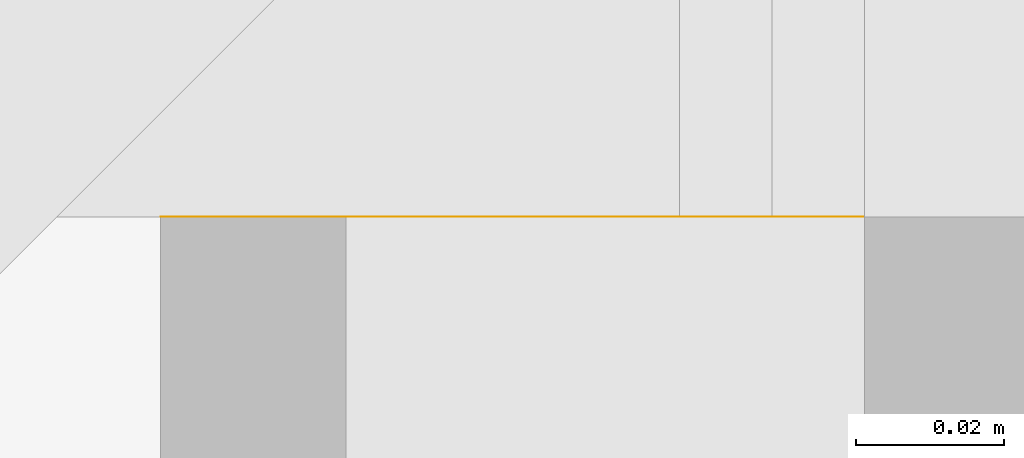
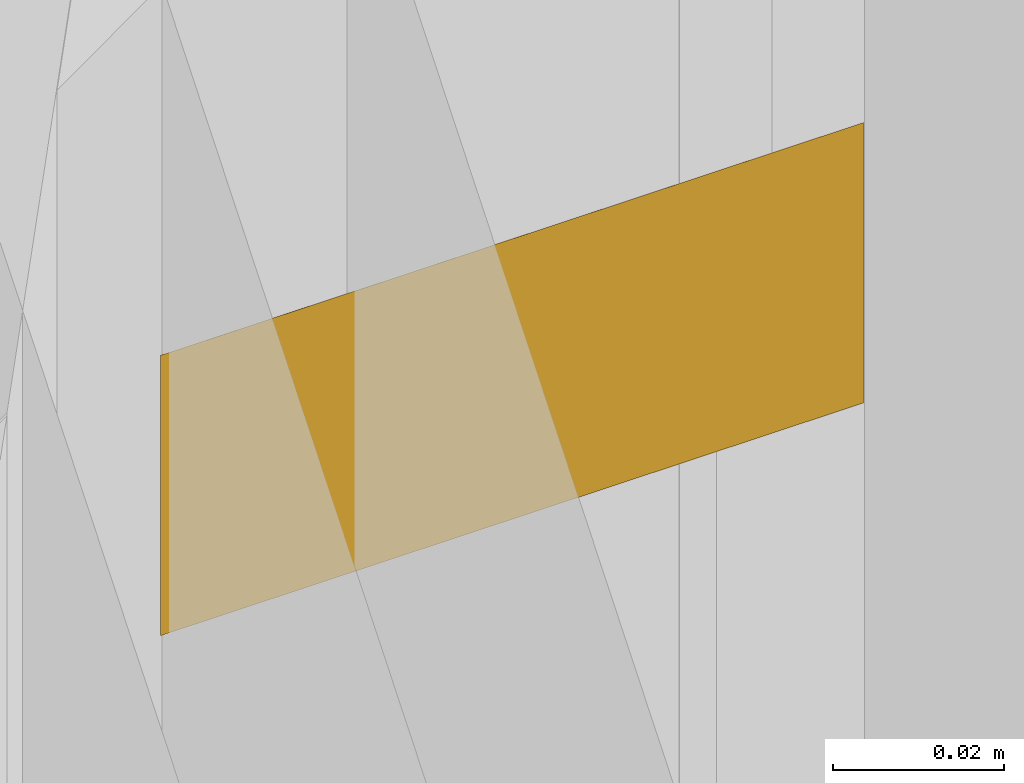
# One storey, part 91 of 109: 1 covering.
"""IFC2X3 building model written with IfcOpenShell, lengths in millimetres."""

from ifc_helpers import new_model, entity, si_unit, converted_unit, derived_unit, money_unit, direction, frame, origin_with_axes, place, context, subcontext, project, spatial, faceted_brep, material, type_object, element, save


model = new_model("IFC2X3")

# Units and contexts
model_context = context("Model", 3, precision=0.01, world=origin_with_axes(), true_north=direction((0.0, 1.0)))
body_context = subcontext(model_context, "Body", "Model", "MODEL_VIEW")
ifc_project = project(units=[si_unit("LENGTHUNIT", "METRE", prefix="MILLI"), si_unit("AREAUNIT", "SQUARE_METRE"), si_unit("VOLUMEUNIT", "CUBIC_METRE"), converted_unit("PLANEANGLEUNIT", "DEGREE", entity("IfcPlaneAngleMeasure", 0.0174532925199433), si_unit("PLANEANGLEUNIT", "RADIAN"), dimensions=[0, 0, 0, 0, 0, 0, 0]), money_unit("EUR"), converted_unit("TIMEUNIT", "Year", entity("IfcTimeMeasure", 31557600.0), si_unit("TIMEUNIT", "SECOND"), dimensions=[0, 0, 1, 0, 0, 0, 0]), si_unit("MASSUNIT", "GRAM", prefix="KILO"), si_unit("THERMODYNAMICTEMPERATUREUNIT", "DEGREE_CELSIUS"), si_unit("LUMINOUSINTENSITYUNIT", "LUMEN"), si_unit("ENERGYUNIT", "JOULE", prefix="MEGA"), derived_unit("THERMALCONDUCTANCEUNIT", [(si_unit("POWERUNIT", "WATT"), 1), (si_unit("LENGTHUNIT", "METRE"), -1), (si_unit("THERMODYNAMICTEMPERATUREUNIT", "KELVIN"), -1)]), derived_unit("SPECIFICHEATCAPACITYUNIT", [(si_unit("ENERGYUNIT", "JOULE"), 1), (si_unit("MASSUNIT", "GRAM", prefix="KILO"), -1), (si_unit("THERMODYNAMICTEMPERATUREUNIT", "KELVIN"), -1)]), derived_unit("MASSDENSITYUNIT", [(si_unit("MASSUNIT", "GRAM", prefix="KILO"), 1), (si_unit("VOLUMEUNIT", "CUBIC_METRE"), -1)])], contexts=[model_context])

# Site, building, storey
site_placement = place(None, origin_with_axes())
site = spatial("IfcSite", under=ifc_project, at=site_placement, Name="<site naam>", CompositionType="ELEMENT")
building_placement = place(site_placement, origin_with_axes())
building = spatial("IfcBuilding", under=site, at=building_placement, Name="<Naam gebouw>", CompositionType="ELEMENT")
storey_placement = place(building_placement, origin_with_axes())
storey = spatial("IfcBuildingStorey", under=building, at=storey_placement, Name="00 Begane grond", CompositionType="ELEMENT", Elevation=0.0)

# Covering
ifc_material = material(Name="systeemplafond 600*600 kleur wit")
covering_type = type_object("IfcCoveringType", Name="PA-01a 40", PredefinedType="CEILING")
covering_placement = place(storey_placement, frame((16094.82936158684, 14985.53548604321, 3000.0), z_axis=(0.0, 0.0, 1.0), x_axis=(1.0, 0.0, 0.0)))
element("IfcCovering", 1, at=covering_placement, inside=storey, type_object=covering_type, material=ifc_material, Name="45_Vloer_PA-01a", PredefinedType="CEILING", context=body_context, shape_type="Brep", body=[
    faceted_brep([(0.0, 0.0, 40.00000000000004), (0.0, 0.0, 0.0), (-94.84424314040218, 0.01244685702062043, 0.0), (-94.84424314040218, 0.01244685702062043, 40.00000000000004), (-94.84424314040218, 0.0, 40.00000000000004), (-94.84424314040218, 0.0, 0.0)], [[[0, 1, 2, 3]], [[4, 5, 1, 0]], [[2, 1, 5]], [[3, 2, 5, 4]], [[4, 0, 3]]]),
])

save(model, "model.ifc")
